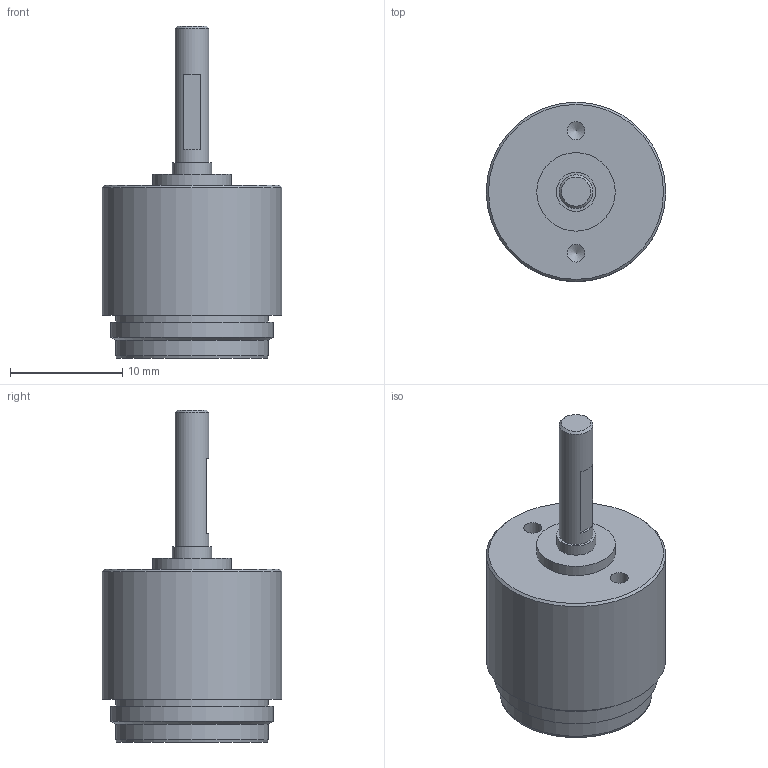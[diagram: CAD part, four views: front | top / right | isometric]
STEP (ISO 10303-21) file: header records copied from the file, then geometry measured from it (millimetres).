
FILE_DESCRIPTION(/* description */ (''),/* implementation_level */ '2;1');
FILE_NAME(/* name */ '16-7_2.stp',/* time_stamp */ '2016-09-09T14:59:12+02:00',/* author */ ('DR. FRITZ FAULHABER GmbH & Co. KG'),/* organization */ ('DR. FRITZ FAULHABER GmbH & Co. KG'),/* preprocessor_version */ 'ST-DEVELOPER v16',/* originating_system */ 'SIEMENS PLM Software NX 10.0',/* authorisation */ '');
FILE_SCHEMA (('AUTOMOTIVE_DESIGN { 1 0 10303 214 3 1 1 1 }'));
Length unit declared in the file: millimetre
Products named in the file (1): H00000645_A
Bounding box: 16 x 16 x 29.6 mm (x, y, z)
Volume: 2947.2 mm3; surface area: 1420.5 mm2
Topology: 1 solids, 1 shells, 27 faces, 63 edges, 51 vertices
Faces by surface type: plane 11, cylinder 10, cone 6
Full cylindrical faces by diameter (mm): 1.6 x2, 3 x1, 3.5 x1, 6 x1, 7 x1, 13.6 x2, 14.5 x1, 16 x1
Entity records: 705 total; most frequent: DIRECTION 129, CARTESIAN_POINT 99, AXIS2_PLACEMENT_3D 60, ORIENTED_EDGE 58, EDGE_LOOP 50, FACE_BOUND 47, CIRCLE 32, VERTEX_POINT 29
